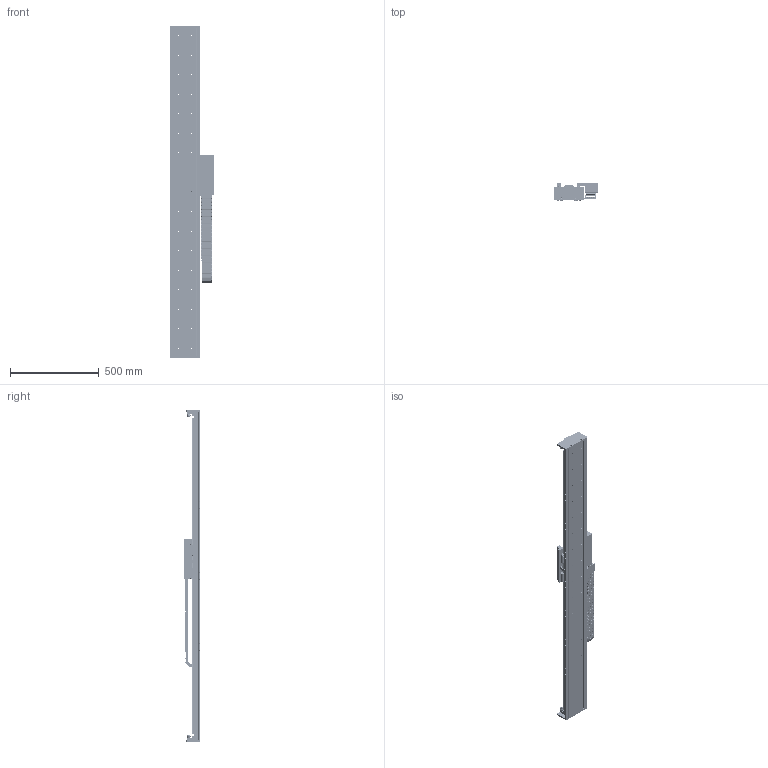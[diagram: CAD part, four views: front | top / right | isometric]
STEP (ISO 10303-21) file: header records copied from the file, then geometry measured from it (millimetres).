
FILE_DESCRIPTION (( 'STEP AP203' ), '1' );
FILE_NAME ('STF20120N-xC1B-Axx.STEP', '2007-06-22T21:37:02', ( 'Yaskawa' ), ( 'Yaskawa' ), 'SwSTEP 2.0', 'SolidWorks 2007', '' );
FILE_SCHEMA (( 'CONFIG_CONTROL_DESIGN' ));
Products named in the file (58): Bumper-Medium; 07.50.028.0_111; STF20-120 SSR15W Carriage-R2; SGLFM-20324AC; STF2035-007 End Stop; 07.50.028.0_102; 07.50.028.0_108; STF20120N-xC1B-Axx; 07.50.028.0_97; STF20BM Base_STF20BM-013; SGLFM-20756AC; Mult-SR15+580LY_013; STF2035-001B F20-120 Carriage; STF2035-002A-R2 F2035 Carriage Horn; STF2035-004 Flag; STF2035-005-R2 Cable Router; STF2035-003 Renishaw Encoder Mount; RGH22B; SSR15W Block; SGLFW-20A120AP; STCM-R1; STCM-001-R2 Cable Bracket; STCM-003 Cable Assembly Bottom; STCM-004 Cable Assembly Side; STCM-005-R1 Cable Assembly Cover; STCM-006-R1 Upper E-chain Bracket; 07.50.028.0_101; STF2035-006 Endplate; STCM-007 Lower E-Chain Bracket; STF20120N; 07.50.028.0_96; 07.50.028.0_98; 07.50.028.0_99; 07.50.028.0_117; 07.50.028.0_100; 07.50.028.0_103; 07.50.028.0_104; 07.50.028.0_106; 07.50.028.0_107; 07.50.028.0_114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
Assembly tree (92 placements, depth 4):
  STF20120N-xC1B-Axx
    STF2035-006 Endplate  x2
    STF20BM Base_STF20BM-013
      End Stop with Bumper  x4
        STF2035-007 End Stop
        Bumper-Medium
      Mult-SR15+580LY_013  x2
      STF20BM Base_STF20BM-013
      SGLFM-20324AC  x3
      SGLFM-20756AC
    STCM-007 Lower E-Chain Bracket
    STF20120N
      07.50.028.0_123
      07.50.028.0_115
      07.50.028.0_106
      07.50.028.0_118
      07.50.028.0_112
      07.50.028.0_110
      07.50.028.0_105  x12
      07.50.028.0_111  x14
      07.50.028.0_104
      07.50.028.0_108
      07.50.028.0_114
      07.50.028.0_122
      07.50.028.0_103
      07.50.028.0_107
      07.50.028.0_97
      07.50.028.0_117
      07.50.028.0_121
      07.50.028.0_100
      07.50.028.0_113
      07.50.028.0_119
      07.50.028.0_101
      07.50.028.0_102
      07.50.028.0_99
      07.50.028.0_96
      07.50.028.0_116
      07.50.028.0_109
      07.50.028.0_120
      07.50.028.0_98
    Complete Carriage
      STCM-R1
        STCM-005-R1 Cable Assembly Cover
        Serial Converter
        STCM-001-R2 Cable Bracket
        STCM-006-R1 Upper E-chain Bracket
        STCM-004 Cable Assembly Side
        STCM-003 Cable Assembly Bottom
        STCM-002-R2 Cable Assembly Front
      STF20-120 SSR15W Carriage-R2
        RGH22B
        STF2035-001B F20-120 Carriage
        STF2035-002A-R2 F2035 Carriage Horn  x2
        SGLFW-20A120AP
        STF2035-003 Renishaw Encoder Mount
        SSR15W Block  x4
        STF2035-004 Flag
        STF2035-005-R2 Cable Router
Bounding box: 251.03 x 94.7 x 1869.05 mm (x, y, z)
Volume: 8492436.3 mm3; surface area: 2350893.8 mm2
Topology: 139 solids, 139 shells, 7391 faces, 19238 edges, 12307 vertices
Faces by surface type: plane 3776, cylinder 3041, cone 526, bspline 44, torus 4
Entity records: 144353 total; most frequent: DIRECTION 24493, CARTESIAN_POINT 23899, ORIENTED_EDGE 22622, EDGE_CURVE 11311, AXIS2_PLACEMENT_3D 8615, VERTEX_POINT 7408, VECTOR 7263, LINE 7263
